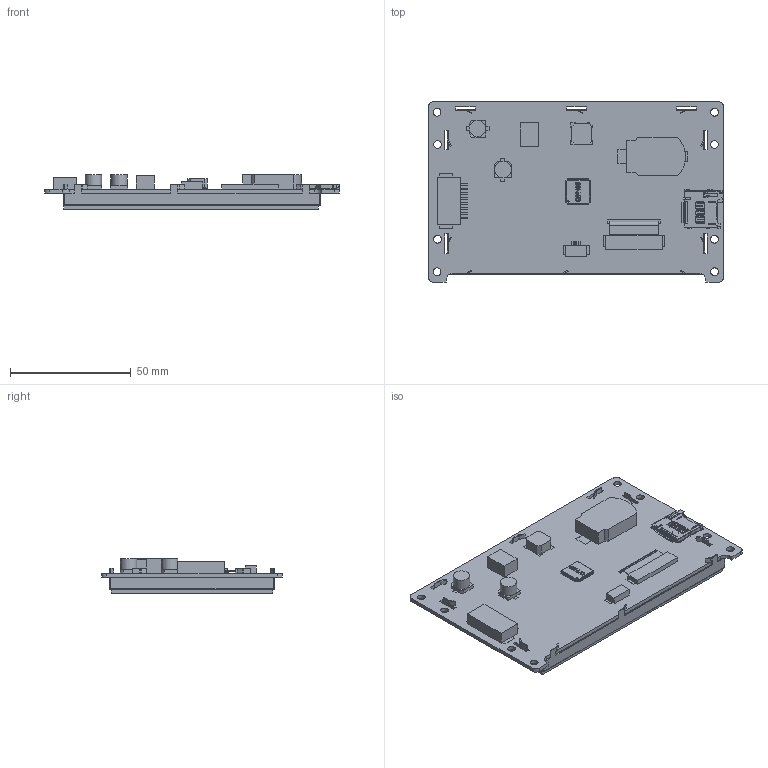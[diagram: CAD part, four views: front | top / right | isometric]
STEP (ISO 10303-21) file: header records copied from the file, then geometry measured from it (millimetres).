
FILE_DESCRIPTION(/* description */ (''),/* implementation_level */ '2;1');
FILE_NAME(/* name */ 'SDWb043T84T_stp.stp',/* time_stamp */ '2025-02-14T19:23:17+08:00',/* author */ (''),/* organization */ (''),/* preprocessor_version */ 'ST-DEVELOPER v16',/* originating_system */ 'SIEMENS PLM Software NX 10.0',/* authorisation */ '');
FILE_SCHEMA (('AP203_CONFIGURATION_CONTROLLED_3D_DESIGN_OF_MECHANICAL_PARTS_AND_ASSEMBLIES_MIM_LF { 1 0 10303 403 2 1 2}'));
Products named in the file (1): SDWb043T84T_stp
Bounding box: 121.9 x 74.7 x 14.31 mm (x, y, z)
Volume: 30509.1 mm3; surface area: 46906.7 mm2
Topology: 19 solids, 19 shells, 2355 faces, 6771 edges, 4443 vertices
Faces by surface type: plane 1920, cylinder 427, bspline 7, cone 1
Full cylindrical faces by diameter (mm): 3.2 x8, 6.776 x2
Entity records: 78423 total; most frequent: CARTESIAN_POINT 13981, ORIENTED_EDGE 13518, DIRECTION 12230, EDGE_CURVE 6759, LINE 5866, VECTOR 5866, VERTEX_POINT 4441, AXIS2_PLACEMENT_3D 3182
